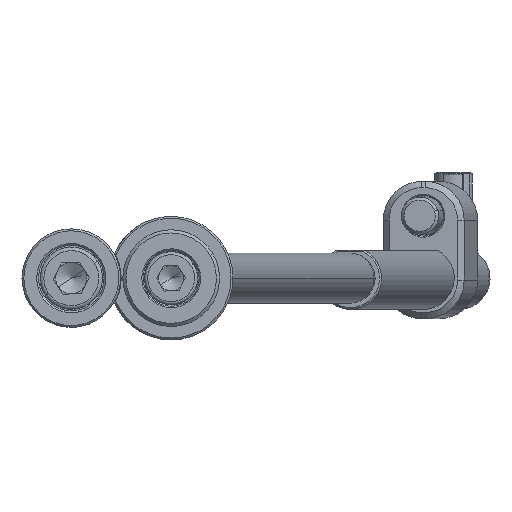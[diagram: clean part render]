
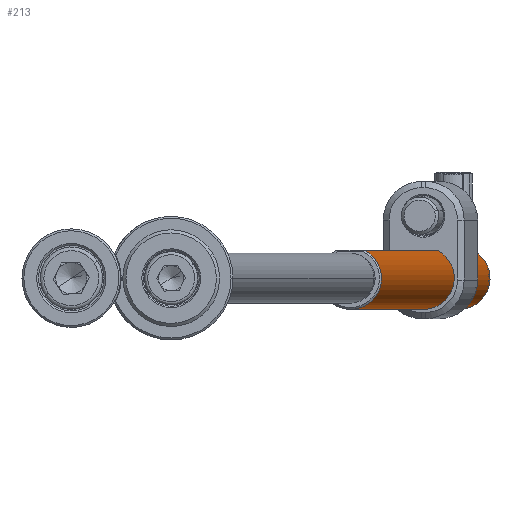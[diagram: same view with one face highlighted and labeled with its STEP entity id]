
A CAD part, front view. The second image highlights one B-rep face of the part: STEP entity #213.
In plain terms, the highlighted cylindrical face has radius 5 mm (diameter 10 mm), a partial arc.
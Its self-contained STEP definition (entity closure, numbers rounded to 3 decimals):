
#92 = CARTESIAN_POINT ( 'NONE',  ( 4.108, -2.851, 10.952 ) ) ;
#181 = CIRCLE ( 'NONE', #5004, 5. ) ;
#213 = ADVANCED_FACE ( 'NONE', ( #12574 ), #11341, .T. ) ;
#624 = ORIENTED_EDGE ( 'NONE', *, *, #12552, .F. ) ;
#966 = VERTEX_POINT ( 'NONE', #13234 ) ;
#1074 = DIRECTION ( 'NONE',  ( 1., 0., 0. ) ) ;
#1240 = DIRECTION ( 'NONE',  ( 0., 0., -1. ) ) ;
#1368 = CARTESIAN_POINT ( 'NONE',  ( 4.5, -2.179, 199.7 ) ) ;
#1500 = CARTESIAN_POINT ( 'NONE',  ( -5., 0., 0.3 ) ) ;
#1509 = DIRECTION ( 'NONE',  ( -1., 0., 0. ) ) ;
#2333 = CARTESIAN_POINT ( 'NONE',  ( 4.376, -2.422, 8.22 ) ) ;
#2413 = ORIENTED_EDGE ( 'NONE', *, *, #8454, .T. ) ;
#2479 = CARTESIAN_POINT ( 'NONE',  ( 4., -3., 10.198 ) ) ;
#2714 = CARTESIAN_POINT ( 'NONE',  ( 4.5, -2.179, 7.938 ) ) ;
#2929 = VECTOR ( 'NONE', #11334, 1000. ) ;
#2956 = CARTESIAN_POINT ( 'NONE',  ( 4.5, -2.179, 200. ) ) ;
#2986 = ORIENTED_EDGE ( 'NONE', *, *, #4263, .T. ) ;
#3131 = VECTOR ( 'NONE', #11483, 1000. ) ;
#3167 = DIRECTION ( 'NONE',  ( 1., 0., 0. ) ) ;
#3331 = VERTEX_POINT ( 'NONE', #2714 ) ;
#3373 = EDGE_LOOP ( 'NONE', ( #2986, #2413, #5024, #11923, #624, #10770 ) ) ;
#3403 = CIRCLE ( 'NONE', #3631, 5. ) ;
#3499 = CARTESIAN_POINT ( 'NONE',  ( 4.203, -2.709, 11.303 ) ) ;
#3631 = AXIS2_PLACEMENT_3D ( 'NONE', #8595, #9910, #1074 ) ;
#3648 = EDGE_CURVE ( 'NONE', #3331, #6721, #13714, .T. ) ;
#4263 = EDGE_CURVE ( 'NONE', #8864, #12950, #181, .T. ) ;
#4699 = CARTESIAN_POINT ( 'NONE',  ( 4., -3., 9.809 ) ) ;
#4774 = CARTESIAN_POINT ( 'NONE',  ( 4.107, -2.852, 9.051 ) ) ;
#5004 = AXIS2_PLACEMENT_3D ( 'NONE', #8597, #6621, #3167 ) ;
#5024 = ORIENTED_EDGE ( 'NONE', *, *, #5239, .T. ) ;
#5239 = EDGE_CURVE ( 'NONE', #14042, #6721, #3403, .T. ) ;
#5646 = CARTESIAN_POINT ( 'NONE',  ( 4.438, -2.308, 8.074 ) ) ;
#5725 = CARTESIAN_POINT ( 'NONE',  ( 4.014, -2.982, 9.617 ) ) ;
#5774 = DIRECTION ( 'NONE',  ( 0., 0., -1. ) ) ;
#5850 = CARTESIAN_POINT ( 'NONE',  ( 4.069, -2.906, 10.771 ) ) ;
#6621 = DIRECTION ( 'NONE',  ( 0., 0., -1. ) ) ;
#6721 = VERTEX_POINT ( 'NONE', #8960 ) ;
#6861 = CARTESIAN_POINT ( 'NONE',  ( 4.5, -2.179, 12.062 ) ) ;
#7232 = LINE ( 'NONE', #11236, #7695 ) ;
#7695 = VECTOR ( 'NONE', #1240, 1000. ) ;
#7858 = CARTESIAN_POINT ( 'NONE',  ( 4.258, -2.623, 8.532 ) ) ;
#8454 = EDGE_CURVE ( 'NONE', #12950, #14042, #7232, .T. ) ;
#8595 = CARTESIAN_POINT ( 'NONE',  ( 0., 0., 0.3 ) ) ;
#8597 = CARTESIAN_POINT ( 'NONE',  ( 0., 0., 199.7 ) ) ;
#8850 = CARTESIAN_POINT ( 'NONE',  ( 4.015, -2.98, 10.396 ) ) ;
#8864 = VERTEX_POINT ( 'NONE', #1368 ) ;
#8960 = CARTESIAN_POINT ( 'NONE',  ( 4.5, -2.179, 0.3 ) ) ;
#9069 = CARTESIAN_POINT ( 'NONE',  ( 4.438, -2.307, 11.926 ) ) ;
#9326 = CARTESIAN_POINT ( 'NONE',  ( -5., 0., 199.7 ) ) ;
#9773 = AXIS2_PLACEMENT_3D ( 'NONE', #13432, #5774, #1509 ) ;
#9910 = DIRECTION ( 'NONE',  ( 0., 0., 1. ) ) ;
#10770 = ORIENTED_EDGE ( 'NONE', *, *, #14040, .F. ) ;
#11236 = CARTESIAN_POINT ( 'NONE',  ( -5., 0., 200. ) ) ;
#11334 = DIRECTION ( 'NONE',  ( 0., 0., -1. ) ) ;
#11341 = CYLINDRICAL_SURFACE ( 'NONE', #9773, 5. ) ;
#11483 = DIRECTION ( 'NONE',  ( 0., 0., -1. ) ) ;
#11693 = CARTESIAN_POINT ( 'NONE',  ( 4.5, -2.179, 200. ) ) ;
#11923 = ORIENTED_EDGE ( 'NONE', *, *, #3648, .F. ) ;
#12163 = CARTESIAN_POINT ( 'NONE',  ( 4.202, -2.711, 8.701 ) ) ;
#12306 = CARTESIAN_POINT ( 'NONE',  ( 4.376, -2.421, 11.781 ) ) ;
#12434 = CARTESIAN_POINT ( 'NONE',  ( 4.259, -2.621, 11.47 ) ) ;
#12552 = EDGE_CURVE ( 'NONE', #966, #3331, #13422, .T. ) ;
#12574 = FACE_OUTER_BOUND ( 'NONE', #3373, .T. ) ;
#12770 = LINE ( 'NONE', #2956, #2929 ) ;
#12950 = VERTEX_POINT ( 'NONE', #9326 ) ;
#13231 = CARTESIAN_POINT ( 'NONE',  ( 4.068, -2.908, 9.236 ) ) ;
#13234 = CARTESIAN_POINT ( 'NONE',  ( 4.5, -2.179, 12.062 ) ) ;
#13422 = B_SPLINE_CURVE_WITH_KNOTS ( 'NONE', 3,
 ( #6861, #9069, #12306, #12434, #3499, #92, #5850, #8850, #2479, #4699, #5725, #13231, #4774, #12163, #7858, #2333, #5646, #13440 ),
 .UNSPECIFIED., .F., .F.,
 ( 4, 2, 2, 2, 2, 2, 2, 2, 4 ),
 ( 0., 0.001, 0.001, 0.002, 0.002, 0.003, 0.003, 0.004, 0.005 ),
 .UNSPECIFIED. ) ;
#13432 = CARTESIAN_POINT ( 'NONE',  ( 0., 0., 200. ) ) ;
#13440 = CARTESIAN_POINT ( 'NONE',  ( 4.5, -2.179, 7.938 ) ) ;
#13714 = LINE ( 'NONE', #11693, #3131 ) ;
#14040 = EDGE_CURVE ( 'NONE', #8864, #966, #12770, .T. ) ;
#14042 = VERTEX_POINT ( 'NONE', #1500 ) ;
